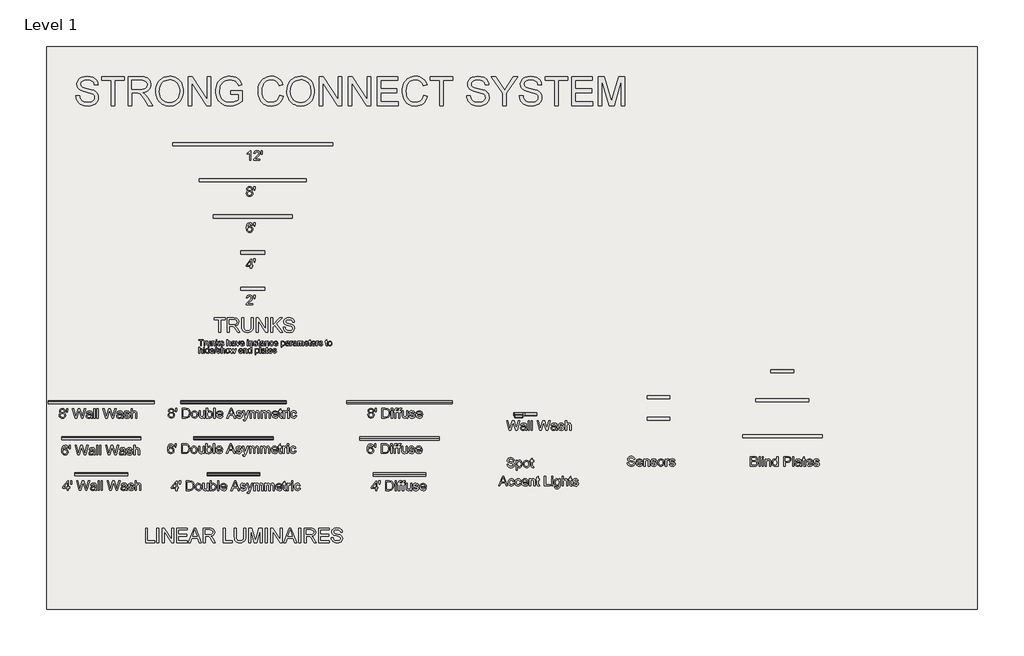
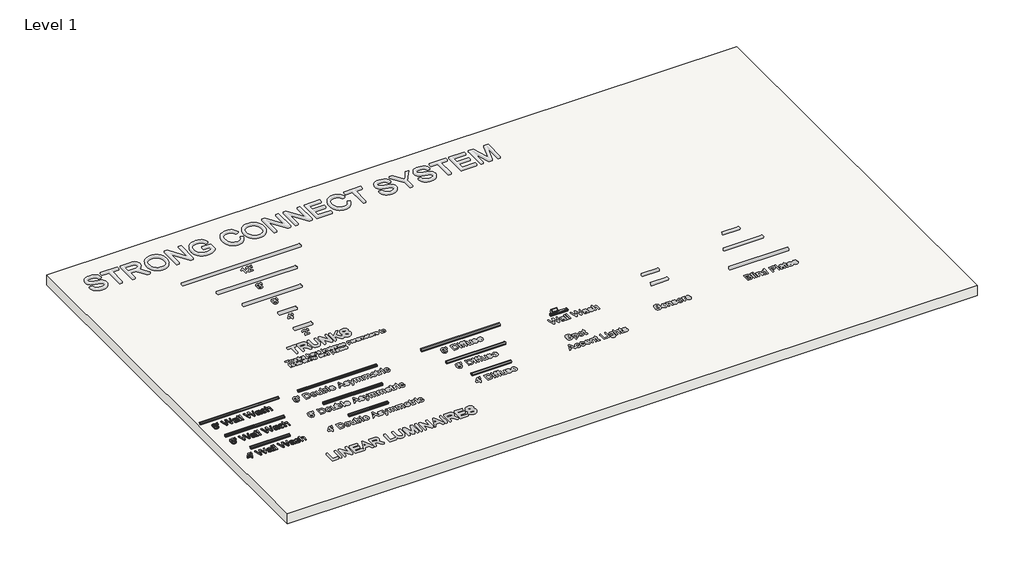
# One storey, part 1 of 9: 10 light fixtures, 3 proxies, 1 slab.
"""IFC4 building model written with IfcOpenShell, lengths in millimetres."""

from ifc_helpers import new_model, si_unit, frame, origin, origin_with_axes, place, context, project, spatial, polyline, outline, extrude, transform, mapped, element, save
from components import sc_accent_wall_wash_ww_dae7142a, sc_linear_luminaire_4_da_37324525, sc_linear_luminaire_4_diffuse_23ad9b4f, sc_linear_luminaire_4_ww_3d6254a3, sc_linear_luminaire_6_da_861f9beb, sc_linear_luminaire_6_diffuse_c174722b, sc_linear_luminaire_6_ww_00255d47, sc_linear_luminaire_8_da_5aac7d14, sc_linear_luminaire_8_diffuse_547f4cf2, sc_linear_luminaire_8_ww_71fdede2

model = new_model("IFC4")

# Units and contexts
model_context = context("Model", 3, world=origin())
ifc_project = project(units=[si_unit("LENGTHUNIT", "METRE", prefix="MILLI")], contexts=[model_context])

# Site, building, storey
site = spatial("IfcSite", under=ifc_project)
building = spatial("IfcBuilding", under=site)
storey = spatial("IfcBuildingStorey", under=building, Name="Level 1", Elevation=0.0)

# Proxies
placement = place(None, origin())
element("IfcBuildingElementProxy", 1, Name="8\"", ObjectType="8\"", at=placement, inside=storey, context=model_context, shape_type="SweptSolid", body=[
    extrude(outline(polyline([(-11388.9825766, 7554.1779563), (-11402.571355, 7560.8701044), (-11412.107666, 7569.9416829), (-11417.7402239, 7581.2067988), (-11419.6177432, 7594.4795591), (-11415.5280972, 7614.3205388), (-11403.2591591, 7630.7163016), (-11384.1865371, 7641.7211673), (-11359.6858395, 7645.3894559), (-11335.0364274, 7641.6344172), (-11315.7159481, 7630.3693013), (-11303.2239384, 7613.7132884), (-11299.0599352, 7593.7855586), (-11300.9126688, 7580.9403521), (-11306.4708695, 7569.8673257), (-11315.7965018, 7560.8515151), (-11328.9515299, 7554.1779563), (-11313.3303213, 7546.1287894), (-11301.959866, 7534.2750123), (-11295.026057, 7519.186697), (-11292.7147874, 7501.4339153), (-11297.3001481, 7477.1686821), (-11311.0562302, 7457.1170237), (-11332.2976039, 7443.6583704), (-11359.3388392, 7439.1721526), (-11386.3800745, 7443.6769597), (-11407.6214482, 7457.1913809), (-11421.3775303, 7477.4351288), (-11425.962891, 7502.1279158), (-11423.5586749, 7520.5685016), (-11416.3460264, 7535.7373706), (-11404.6967316, 7547.1140223), (-11388.9825766, 7554.1779563)]), holes=[polyline([(-11394.2371521, 7593.7359871), (-11391.9878467, 7582.6567642), (-11385.2399308, 7573.8082573), (-11374.19169, 7568.0083957), (-11359.0414104, 7566.0751084), (-11344.2443275, 7567.9960028), (-11333.3633904, 7573.7586858), (-11326.6712424, 7582.3097639), (-11324.4405263, 7592.5958434), (-11326.7455996, 7603.2722981), (-11333.6608192, 7612.1022157), (-11344.6904707, 7618.0322024), (-11359.3388392, 7620.0088647), (-11374.0801542, 7618.0755775), (-11385.0912164, 7612.2757158), (-11391.9506681, 7603.7742092), (-11394.2371521, 7593.7359871)]), polyline([(-11400.5822999, 7503.0202022), (-11396.3439394, 7483.9104017), (-11390.475917, 7475.7125203), (-11381.3485706, 7469.6090334), (-11359.1405533, 7464.5527437), (-11341.864897, 7467.2110137), (-11328.9019584, 7475.1858234), (-11320.7970235, 7487.2626721), (-11318.0953785, 7502.2270588), (-11320.8837736, 7517.4454992), (-11329.2489587, 7529.7887945), (-11342.5093261, 7537.9680866), (-11359.9832683, 7540.6945173), (-11377.0172637, 7538.0052652), (-11389.8500772, 7529.9375089), (-11397.8992442, 7517.8296781), (-11400.5822999, 7503.0202022)])]), origin_with_axes(), (0.0, 0.0, 1.0), 25.4),
    extrude(outline(polyline([(-11264.8060514, 7572.4202562), (-11270.5067701, 7610.9372862), (-11270.5067701, 7645.3894559), (-11245.1261789, 7645.3894559), (-11245.1261789, 7610.9372862), (-11251.074755, 7572.4202562), (-11264.8060514, 7572.4202562)])), origin_with_axes(), (0.0, 0.0, 1.0), 25.4),
    extrude(outline(polyline([(-11091.4050593, 7442.3447265), (-11146.7763881, 7645.3894559), (-11120.6026535, 7645.3894559), (-11088.4803428, 7511.9430663), (-11078.5660494, 7470.7491771), (-11067.9577554, 7507.1842055), (-11027.7057241, 7645.3894559), (-10989.9818376, 7645.3894559), (-10960.734672, 7545.2055208), (-10948.2054837, 7508.0269204), (-10938.9727979, 7470.7491771), (-10929.3559333, 7510.7533511), (-10896.9361938, 7645.3894559), (-10870.7624591, 7645.3894559), (-10926.1833594, 7442.3447265), (-10953.2989519, 7442.3447265), (-11001.9781326, 7598.9905626), (-11008.7694236, 7620.8515796), (-11016.4034296, 7594.5291306), (-11060.7698927, 7442.3447265), (-11091.4050593, 7442.3447265)])), origin_with_axes(), (0.0, 0.0, 1.0), 25.4),
    extrude(outline(polyline([(-10753.377225, 7461.3801699), (-10777.9894584, 7444.1788708), (-10805.1794081, 7439.1721526), (-10826.3897996, 7442.1836192), (-10842.0357939, 7451.2180191), (-10851.6836407, 7464.9369226), (-10854.8995897, 7482.0019002), (-10850.0415859, 7502.0783444), (-10837.2769331, 7516.6523557), (-10819.5055621, 7524.9803622), (-10797.5454022, 7528.7973652), (-10753.5259394, 7537.5219434), (-10753.377225, 7543.1730906), (-10755.1246192, 7554.5001709), (-10760.3668018, 7561.9111052), (-10772.0904538, 7567.4135381), (-10788.4242522, 7569.2476823), (-10803.5435497, 7568.026985), (-10814.1022722, 7564.3648928), (-10821.3025278, 7557.5921911), (-10826.3464246, 7547.0396651), (-10851.7270158, 7550.212239), (-10847.3213516, 7564.0922498), (-10840.7469358, 7574.9979725), (-10831.3903214, 7583.3383719), (-10818.6380614, 7589.5224124), (-10785.1525354, 7594.6282735), (-10754.39344, 7590.11727), (-10737.0186408, 7578.7901898), (-10729.2359205, 7561.5641049), (-10727.9966338, 7539.3560877), (-10727.9966338, 7507.7790631), (-10726.7077756, 7463.6852431), (-10721.651486, 7442.3447265), (-10747.0320772, 7442.3447265), (-10753.377225, 7461.3801699)]), holes=[polyline([(-10753.377225, 7512.1413522), (-10794.3232568, 7504.3586319), (-10816.1594881, 7500.2442001), (-10826.0489958, 7493.552052), (-10829.5189985, 7483.786473), (-10827.6290863, 7476.2392171), (-10821.9593497, 7470.0551766), (-10812.6337175, 7465.928352), (-10799.7761182, 7464.5527437), (-10786.1439647, 7466.0708699), (-10774.0980982, 7470.6252485), (-10757.5412282, 7485.3231885), (-10753.5259394, 7504.9534895), (-10753.377225, 7512.1413522)])]), origin_with_axes(), (0.0, 0.0, 1.0), 25.4),
    extrude(outline(polyline([(-10693.0983209, 7442.3447265), (-10693.0983209, 7645.3894559), (-10667.7177298, 7645.3894559), (-10667.7177298, 7442.3447265), (-10693.0983209, 7442.3447265)])), origin_with_axes(), (0.0, 0.0, 1.0), 25.4),
    extrude(outline(polyline([(-10629.646843, 7442.3447265), (-10629.646843, 7645.3894559), (-10604.2662518, 7645.3894559), (-10604.2662518, 7442.3447265), (-10629.646843, 7442.3447265)])), origin_with_axes(), (0.0, 0.0, 1.0), 25.4),
    extrude(outline(polyline([(-10447.3725583, 7442.3447265), (-10502.7438871, 7645.3894559), (-10476.5701525, 7645.3894559), (-10444.4478418, 7511.9430663), (-10434.5335484, 7470.7491771), (-10423.9252544, 7507.1842055), (-10383.6732231, 7645.3894559), (-10345.9493366, 7645.3894559), (-10316.702171, 7545.2055208), (-10304.1729827, 7508.0269204), (-10294.9402969, 7470.7491771), (-10285.3234323, 7510.7533511), (-10252.9036928, 7645.3894559), (-10226.7299581, 7645.3894559), (-10282.1508584, 7442.3447265), (-10309.2664509, 7442.3447265), (-10357.9456316, 7598.9905626), (-10364.7369226, 7620.8515796), (-10372.3709286, 7594.5291306), (-10416.7373917, 7442.3447265), (-10447.3725583, 7442.3447265)])), origin_with_axes(), (0.0, 0.0, 1.0), 25.4),
    extrude(outline(polyline([(-10109.344724, 7461.3801699), (-10133.9569574, 7444.1788708), (-10161.1469071, 7439.1721526), (-10182.3572986, 7442.1836192), (-10198.0032929, 7451.2180191), (-10207.6511397, 7464.9369226), (-10210.8670887, 7482.0019002), (-10206.0090849, 7502.0783444), (-10193.2444321, 7516.6523557), (-10175.4730611, 7524.9803622), (-10153.5129012, 7528.7973652), (-10109.4934384, 7537.5219434), (-10109.344724, 7543.1730906), (-10111.0921182, 7554.5001709), (-10116.3343008, 7561.9111052), (-10128.0579528, 7567.4135381), (-10144.3917512, 7569.2476823), (-10159.5110487, 7568.026985), (-10170.0697712, 7564.3648928), (-10177.2700268, 7557.5921911), (-10182.3139236, 7547.0396651), (-10207.6945148, 7550.212239), (-10203.2888506, 7564.0922498), (-10196.7144348, 7574.9979725), (-10187.3578204, 7583.3383719), (-10174.6055604, 7589.5224124), (-10141.1200344, 7594.6282735), (-10110.360939, 7590.11727), (-10092.9861398, 7578.7901898), (-10085.2034195, 7561.5641049), (-10083.9641328, 7539.3560877), (-10083.9641328, 7507.7790631), (-10082.6752746, 7463.6852431), (-10077.618985, 7442.3447265), (-10102.9995762, 7442.3447265), (-10109.344724, 7461.3801699)]), holes=[polyline([(-10109.344724, 7512.1413522), (-10150.2907558, 7504.3586319), (-10172.1269871, 7500.2442001), (-10182.0164948, 7493.552052), (-10185.4864975, 7483.786473), (-10183.5965853, 7476.2392171), (-10177.9268487, 7470.0551766), (-10168.6012165, 7465.928352), (-10155.7436172, 7464.5527437), (-10142.1114637, 7466.0708699), (-10130.0655972, 7470.6252485), (-10113.5087272, 7485.3231885), (-10109.4934384, 7504.9534895), (-10109.344724, 7512.1413522)])]), origin_with_axes(), (0.0, 0.0, 1.0), 25.4),
    extrude(outline(polyline([(-10058.5835416, 7486.760761), (-10033.2029504, 7489.9333349), (-10029.2000545, 7479.0771836), (-10021.4545127, 7471.0961774), (-10009.9167538, 7466.1886022), (-9994.5372061, 7464.5527437), (-9979.3435514, 7466.0522806), (-9968.6609002, 7470.5508913), (-9962.3405382, 7477.0695392), (-9960.2337508, 7484.6291879), (-9962.352931, 7491.0982644), (-9968.7104717, 7496.0306254), (-9994.8346349, 7503.2680596), (-10033.054236, 7515.6857121), (-10042.7268686, 7521.9255205), (-10049.7350347, 7530.1853662), (-10055.4109677, 7550.6583822), (-10050.8503927, 7569.5698969), (-10038.4079545, 7584.0199795), (-10022.2724419, 7591.5300568), (-10000.4362107, 7594.6282735), (-9969.5531866, 7589.6463411), (-9958.0030348, 7583.7845151), (-9949.9228857, 7576.162902), (-9941.1983074, 7553.3848129), (-9966.5788986, 7550.212239), (-9969.7824547, 7558.1994416), (-9976.121406, 7564.2161784), (-9998.453352, 7569.2476823), (-10013.0273633, 7568.0455743), (-10022.7433709, 7564.43925), (-10028.2086251, 7559.234246), (-10030.0303766, 7553.2360985), (-10027.0065171, 7545.8499498), (-10017.5383668, 7540.2483741), (-9995.6773498, 7534.8450841), (-9958.4243923, 7522.8983606), (-9941.1239502, 7509.36535), (-9936.4208573, 7499.413878), (-9934.8531597, 7487.3060472), (-9936.6935004, 7474.7892517), (-9942.2145225, 7463.0160283), (-9951.2055474, 7452.9096454), (-9963.4558962, 7445.3933717), (-9978.2529791, 7440.7274574), (-9994.8842064, 7439.1721526), (-10020.4754763, 7442.1712263), (-10039.1515265, 7451.1684476), (-10051.6187505, 7466.0646735), (-10058.5835416, 7486.760761)])), origin_with_axes(), (0.0, 0.0, 1.0), 25.4),
    extrude(outline(polyline([(-9906.2999946, 7442.3447265), (-9906.2999946, 7645.3894559), (-9880.9194034, 7645.3894559), (-9880.9194034, 7570.7348263), (-9861.1279952, 7588.6549117), (-9836.7512262, 7594.6282735), (-9821.42125, 7592.9986115), (-9808.2476326, 7588.1096256), (-9797.8748031, 7580.3454945), (-9790.9471906, 7570.0903973), (-9787.0434375, 7555.9997077), (-9785.7421865, 7536.7287999), (-9785.7421865, 7442.3447265), (-9811.1227777, 7442.3447265), (-9811.1227777, 7534.1015121), (-9813.142815, 7549.9891674), (-9819.2029268, 7560.8701044), (-9828.9685059, 7567.1532878), (-9842.1049446, 7569.2476823), (-9862.9001751, 7563.5965351), (-9871.2405745, 7556.9415656), (-9876.7801859, 7548.2789517), (-9880.9194034, 7521.559931), (-9880.9194034, 7442.3447265), (-9906.2999946, 7442.3447265)])), origin_with_axes(), (0.0, 0.0, 1.0), 25.4),
])
element("IfcBuildingElementProxy", 2, Name="8\"", ObjectType="8\"", at=placement, inside=storey, context=model_context, shape_type="SweptSolid", body=[
    extrude(outline(polyline([(-11240.3286078, 6815.5660112), (-11265.709199, 6812.3934374), (-11275.3260636, 6833.5604538), (-11286.8390369, 6841.4794957), (-11300.7562263, 6844.1191763), (-11323.6582441, 6837.9723144), (-11333.1945551, 6828.2625033), (-11340.9834718, 6814.8967964), (-11346.2442438, 6795.9914782), (-11348.1961203, 6769.6628327), (-11338.0153802, 6781.5413955), (-11325.8146029, 6789.912777), (-11312.2753959, 6794.8761202), (-11298.079367, 6796.5305679), (-11274.6320631, 6792.0071715), (-11254.9521906, 6778.4369824), (-11241.6050731, 6757.7037162), (-11237.1560339, 6731.6910889), (-11239.2504284, 6713.5169497), (-11245.5336119, 6696.6688473), (-11255.4850839, 6682.3798719), (-11268.5843441, 6671.8831138), (-11284.2365348, 6665.4326266), (-11301.8467985, 6663.2824642), (-11330.6416245, 6668.9831829), (-11353.5746245, 6686.0853391), (-11362.3255375, 6699.3333137), (-11368.5761897, 6716.2743626), (-11373.5767115, 6761.2356833), (-11372.1887104, 6788.5092848), (-11368.0247072, 6811.7861869), (-11361.0847018, 6831.0663894), (-11351.3686942, 6846.3498923), (-11340.8378557, 6856.4779627), (-11328.6277837, 6863.7122987), (-11299.1699393, 6869.4997675), (-11276.8999577, 6865.918229), (-11259.0666224, 6855.1736135), (-11246.5746127, 6838.1086359), (-11240.3286078, 6815.5660112)]), holes=[polyline([(-11348.1961203, 6732.0876606), (-11342.3219015, 6710.1027149), (-11326.7068893, 6694.1407025), (-11303.8296572, 6688.6630554), (-11287.0806978, 6691.5010219), (-11273.9132768, 6700.0149214), (-11265.380788, 6713.3992175), (-11262.5366251, 6730.8483739), (-11265.3436094, 6747.5973334), (-11273.7645624, 6760.3681826), (-11287.155055, 6768.4545282), (-11304.870658, 6771.1499767), (-11321.5948318, 6768.4545282), (-11335.5801819, 6760.3681826), (-11345.0421357, 6747.907155), (-11348.1961203, 6732.0876606)])]), origin_with_axes(), (0.0, 0.0, 1.0), 25.4),
    extrude(outline(polyline([(-11209.2472979, 6796.5305679), (-11214.9480167, 6835.0475978), (-11214.9480167, 6869.4997675), (-11189.5674255, 6869.4997675), (-11189.5674255, 6835.0475978), (-11195.5160015, 6796.5305679), (-11209.2472979, 6796.5305679)])), origin_with_axes(), (0.0, 0.0, 1.0), 25.4),
    extrude(outline(polyline([(-11035.8463059, 6666.4550381), (-11091.2176347, 6869.4997675), (-11065.0439, 6869.4997675), (-11032.9215893, 6736.053378), (-11023.0072959, 6694.8594888), (-11012.3990019, 6731.2945171), (-10972.1469706, 6869.4997675), (-10934.4230841, 6869.4997675), (-10905.1759185, 6769.3158324), (-10892.6467302, 6732.1372321), (-10883.4140445, 6694.8594888), (-10873.7971798, 6734.8636628), (-10841.3774403, 6869.4997675), (-10815.2037057, 6869.4997675), (-10870.6246059, 6666.4550381), (-10897.7401985, 6666.4550381), (-10946.4193792, 6823.1008743), (-10953.2106702, 6844.9618913), (-10960.8446761, 6818.6394422), (-11005.2111392, 6666.4550381), (-11035.8463059, 6666.4550381)])), origin_with_axes(), (0.0, 0.0, 1.0), 25.4),
    extrude(outline(polyline([(-10697.8184715, 6685.4904815), (-10722.4307049, 6668.2891824), (-10749.6206547, 6663.2824642), (-10770.8310462, 6666.2939308), (-10786.4770405, 6675.3283307), (-10796.1248873, 6689.0472343), (-10799.3408362, 6706.1122118), (-10794.4828324, 6726.188656), (-10781.7181796, 6740.7626673), (-10763.9468087, 6749.0906738), (-10741.9866487, 6752.9076768), (-10697.9671859, 6761.632255), (-10697.8184715, 6767.2834023), (-10699.5658657, 6778.6104825), (-10704.8080484, 6786.0214168), (-10716.5317004, 6791.5238497), (-10732.8654988, 6793.357994), (-10747.9847963, 6792.1372966), (-10758.5435188, 6788.4752045), (-10765.7437744, 6781.7025028), (-10770.7876711, 6771.1499767), (-10796.1682623, 6774.3225506), (-10791.7625982, 6788.2025614), (-10785.1881823, 6799.1082842), (-10775.8315679, 6807.4486835), (-10763.079308, 6813.632724), (-10729.5937819, 6818.7385851), (-10698.8346866, 6814.2275816), (-10681.4598874, 6802.9005014), (-10673.677167, 6785.6744166), (-10672.4378803, 6763.4663993), (-10672.4378803, 6731.8893747), (-10671.1490222, 6687.7955547), (-10666.0927326, 6666.4550381), (-10691.4733237, 6666.4550381), (-10697.8184715, 6685.4904815)]), holes=[polyline([(-10697.8184715, 6736.2516638), (-10738.7645034, 6728.4689435), (-10760.6007346, 6724.3545117), (-10770.4902423, 6717.6623637), (-10773.960245, 6707.8967846), (-10772.0703328, 6700.3495288), (-10766.4005963, 6694.1654882), (-10757.074964, 6690.0386636), (-10744.2173648, 6688.6630554), (-10730.5852113, 6690.1811816), (-10718.5393448, 6694.7355601), (-10701.9824748, 6709.4335001), (-10697.9671859, 6729.0638011), (-10697.8184715, 6736.2516638)])]), origin_with_axes(), (0.0, 0.0, 1.0), 25.4),
    extrude(outline(polyline([(-10637.5395675, 6666.4550381), (-10637.5395675, 6869.4997675), (-10612.1589763, 6869.4997675), (-10612.1589763, 6666.4550381), (-10637.5395675, 6666.4550381)])), origin_with_axes(), (0.0, 0.0, 1.0), 25.4),
    extrude(outline(polyline([(-10574.0880896, 6666.4550381), (-10574.0880896, 6869.4997675), (-10548.7074984, 6869.4997675), (-10548.7074984, 6666.4550381), (-10574.0880896, 6666.4550381)])), origin_with_axes(), (0.0, 0.0, 1.0), 25.4),
    extrude(outline(polyline([(-10391.8138049, 6666.4550381), (-10447.1851337, 6869.4997675), (-10421.011399, 6869.4997675), (-10388.8890883, 6736.053378), (-10378.9747949, 6694.8594888), (-10368.3665009, 6731.2945171), (-10328.1144696, 6869.4997675), (-10290.3905831, 6869.4997675), (-10261.1434175, 6769.3158324), (-10248.6142292, 6732.1372321), (-10239.3815435, 6694.8594888), (-10229.7646788, 6734.8636628), (-10197.3449393, 6869.4997675), (-10171.1712047, 6869.4997675), (-10226.5921049, 6666.4550381), (-10253.7076975, 6666.4550381), (-10302.3868782, 6823.1008743), (-10309.1781692, 6844.9618913), (-10316.8121751, 6818.6394422), (-10361.1786382, 6666.4550381), (-10391.8138049, 6666.4550381)])), origin_with_axes(), (0.0, 0.0, 1.0), 25.4),
    extrude(outline(polyline([(-10053.7859705, 6685.4904815), (-10078.3982039, 6668.2891824), (-10105.5881537, 6663.2824642), (-10126.7985452, 6666.2939308), (-10142.4445395, 6675.3283307), (-10152.0923863, 6689.0472343), (-10155.3083352, 6706.1122118), (-10150.4503314, 6726.188656), (-10137.6856786, 6740.7626673), (-10119.9143077, 6749.0906738), (-10097.9541477, 6752.9076768), (-10053.9346849, 6761.632255), (-10053.7859705, 6767.2834023), (-10055.5333647, 6778.6104825), (-10060.7755474, 6786.0214168), (-10072.4991994, 6791.5238497), (-10088.8329978, 6793.357994), (-10103.9522953, 6792.1372966), (-10114.5110178, 6788.4752045), (-10121.7112734, 6781.7025028), (-10126.7551701, 6771.1499767), (-10152.1357613, 6774.3225506), (-10147.7300972, 6788.2025614), (-10141.1556813, 6799.1082842), (-10131.7990669, 6807.4486835), (-10119.046807, 6813.632724), (-10085.5612809, 6818.7385851), (-10054.8021856, 6814.2275816), (-10037.4273864, 6802.9005014), (-10029.644666, 6785.6744166), (-10028.4053793, 6763.4663993), (-10028.4053793, 6731.8893747), (-10027.1165212, 6687.7955547), (-10022.0602316, 6666.4550381), (-10047.4408227, 6666.4550381), (-10053.7859705, 6685.4904815)]), holes=[polyline([(-10053.7859705, 6736.2516638), (-10094.7320024, 6728.4689435), (-10116.5682336, 6724.3545117), (-10126.4577413, 6717.6623637), (-10129.927744, 6707.8967846), (-10128.0378318, 6700.3495288), (-10122.3680953, 6694.1654882), (-10113.042463, 6690.0386636), (-10100.1848638, 6688.6630554), (-10086.5527103, 6690.1811816), (-10074.5068438, 6694.7355601), (-10057.9499738, 6709.4335001), (-10053.9346849, 6729.0638011), (-10053.7859705, 6736.2516638)])]), origin_with_axes(), (0.0, 0.0, 1.0), 25.4),
    extrude(outline(polyline([(-10003.0247882, 6710.8710727), (-9977.644197, 6714.0436466), (-9973.641301, 6703.1874953), (-9965.8957593, 6695.206489), (-9954.3580003, 6690.2989138), (-9938.9784526, 6688.6630554), (-9923.784798, 6690.1625923), (-9913.1021468, 6694.6612029), (-9906.7817847, 6701.1798508), (-9904.6749974, 6708.7394996), (-9906.7941776, 6715.208576), (-9913.1517183, 6720.140937), (-9939.2758814, 6727.3783712), (-9977.4954826, 6739.7960237), (-9987.1681151, 6746.0358322), (-9994.1762813, 6754.2956779), (-9999.8522143, 6774.7686938), (-9995.2916393, 6793.6802085), (-9982.849201, 6808.1302912), (-9966.7136885, 6815.6403685), (-9944.8774572, 6818.7385851), (-9913.9944332, 6813.7566527), (-9902.4442814, 6807.8948267), (-9894.3641322, 6800.2732136), (-9885.639554, 6777.4951245), (-9911.0201452, 6774.3225506), (-9914.2237012, 6782.3097532), (-9920.5626526, 6788.3264901), (-9942.8945985, 6793.357994), (-9957.4686099, 6792.1558859), (-9967.1846174, 6788.5495617), (-9972.6498717, 6783.3445576), (-9974.4716231, 6777.3464101), (-9971.4477636, 6769.9602615), (-9961.9796134, 6764.3586857), (-9940.1185964, 6758.9553958), (-9902.8656388, 6747.0086722), (-9885.5651968, 6733.4756617), (-9880.8621039, 6723.5241896), (-9879.2944062, 6711.4163588), (-9881.1347469, 6698.8995634), (-9886.6557691, 6687.1263399), (-9895.6467939, 6677.019957), (-9907.8971427, 6669.5036833), (-9922.6942257, 6664.837769), (-9939.3254529, 6663.2824642), (-9964.9167228, 6666.281538), (-9983.5927731, 6675.2787593), (-9996.059997, 6690.1749851), (-10003.0247882, 6710.8710727)])), origin_with_axes(), (0.0, 0.0, 1.0), 25.4),
    extrude(outline(polyline([(-9850.7412411, 6666.4550381), (-9850.7412411, 6869.4997675), (-9825.36065, 6869.4997675), (-9825.36065, 6794.845138), (-9805.5692417, 6812.7652234), (-9781.1924727, 6818.7385851), (-9765.8624965, 6817.1089232), (-9752.6888791, 6812.2199372), (-9742.3160497, 6804.4558062), (-9735.3884371, 6794.2007089), (-9731.4846841, 6780.1100194), (-9730.1834331, 6760.8391115), (-9730.1834331, 6666.4550381), (-9755.5640242, 6666.4550381), (-9755.5640242, 6758.2118238), (-9757.5840615, 6774.099479), (-9763.6441734, 6784.980416), (-9773.4097524, 6791.2635995), (-9786.5461912, 6793.357994), (-9807.3414217, 6787.7068467), (-9815.681821, 6781.0518773), (-9821.2214325, 6772.3892634), (-9825.36065, 6745.6702426), (-9825.36065, 6666.4550381), (-9850.7412411, 6666.4550381)])), origin_with_axes(), (0.0, 0.0, 1.0), 25.4),
])
element("IfcBuildingElementProxy", 3, Name="8\"", ObjectType="8\"", at=placement, inside=storey, context=model_context, shape_type="SweptSolid", body=[
    extrude(outline(polyline([(-11256.6654175, 5918.3447265), (-11256.6654175, 5965.9333349), (-11348.6700605, 5965.9333349), (-11348.6700605, 5991.3139261), (-11250.3202697, 6118.216882), (-11231.2848263, 6118.216882), (-11231.2848263, 5991.3139261), (-11205.9042351, 5991.3139261), (-11205.9042351, 5965.9333349), (-11231.2848263, 5965.9333349), (-11231.2848263, 5918.3447265), (-11256.6654175, 5918.3447265)]), holes=[polyline([(-11256.6654175, 5991.3139261), (-11256.6654175, 6069.7359871), (-11317.4400362, 5991.3139261), (-11256.6654175, 5991.3139261)])]), origin_with_axes(), (0.0, 0.0, 1.0), 25.4),
    extrude(outline(polyline([(-11177.9954991, 6048.4202562), (-11183.6962178, 6086.9372862), (-11183.6962178, 6121.3894559), (-11158.3156267, 6121.3894559), (-11158.3156267, 6086.9372862), (-11164.2642027, 6048.4202562), (-11177.9954991, 6048.4202562)])), origin_with_axes(), (0.0, 0.0, 1.0), 25.4),
    extrude(outline(polyline([(-11004.5945071, 5918.3447265), (-11059.9658359, 6121.3894559), (-11033.7921012, 6121.3894559), (-11001.6697905, 5987.9430663), (-10991.7554971, 5946.7491771), (-10981.1472031, 5983.1842055), (-10940.8951718, 6121.3894559), (-10903.1712853, 6121.3894559), (-10873.9241197, 6021.2055208), (-10861.3949314, 5984.0269204), (-10852.1622456, 5946.7491771), (-10842.545381, 5986.7533511), (-10810.1256415, 6121.3894559), (-10783.9519069, 6121.3894559), (-10839.3728071, 5918.3447265), (-10866.4883997, 5918.3447265), (-10915.1675804, 6074.9905626), (-10921.9588714, 6096.8515796), (-10929.5928773, 6070.5291306), (-10973.9593404, 5918.3447265), (-11004.5945071, 5918.3447265)])), origin_with_axes(), (0.0, 0.0, 1.0), 25.4),
    extrude(outline(polyline([(-10666.5666727, 5937.3801699), (-10691.1789061, 5920.1788708), (-10718.3688559, 5915.1721526), (-10739.5792474, 5918.1836192), (-10755.2252417, 5927.2180191), (-10764.8730885, 5940.9369226), (-10768.0890374, 5958.0019002), (-10763.2310336, 5978.0783444), (-10750.4663808, 5992.6523557), (-10732.6950099, 6000.9803622), (-10710.7348499, 6004.7973652), (-10666.7153871, 6013.5219434), (-10666.5666727, 6019.1730906), (-10668.3140669, 6030.5001709), (-10673.5562496, 6037.9111052), (-10685.2799015, 6043.4135381), (-10701.6137, 6045.2476823), (-10716.7329974, 6044.026985), (-10727.2917199, 6040.3648928), (-10734.4919755, 6033.5921911), (-10739.5358723, 6023.0396651), (-10764.9164635, 6026.212239), (-10760.5107994, 6040.0922498), (-10753.9363835, 6050.9979725), (-10744.5797691, 6059.3383719), (-10731.8275092, 6065.5224124), (-10698.3419831, 6070.6282735), (-10667.5828878, 6066.11727), (-10650.2080885, 6054.7901898), (-10642.4253682, 6037.5641049), (-10641.1860815, 6015.3560877), (-10641.1860815, 5983.7790631), (-10639.8972234, 5939.6852431), (-10634.8409337, 5918.3447265), (-10660.2215249, 5918.3447265), (-10666.5666727, 5937.3801699)]), holes=[polyline([(-10666.5666727, 5988.1413522), (-10707.5127046, 5980.3586319), (-10729.3489358, 5976.2442001), (-10739.2384435, 5969.552052), (-10742.7084462, 5959.786473), (-10740.818534, 5952.2392171), (-10735.1487975, 5946.0551766), (-10725.8231652, 5941.928352), (-10712.9655659, 5940.5527437), (-10699.3334125, 5942.0708699), (-10687.287546, 5946.6252485), (-10670.7306759, 5961.3231885), (-10666.7153871, 5980.9534895), (-10666.5666727, 5988.1413522)])]), origin_with_axes(), (0.0, 0.0, 1.0), 25.4),
    extrude(outline(polyline([(-10606.2877687, 5918.3447265), (-10606.2877687, 6121.3894559), (-10580.9071775, 6121.3894559), (-10580.9071775, 5918.3447265), (-10606.2877687, 5918.3447265)])), origin_with_axes(), (0.0, 0.0, 1.0), 25.4),
    extrude(outline(polyline([(-10542.8362907, 5918.3447265), (-10542.8362907, 6121.3894559), (-10517.4556996, 6121.3894559), (-10517.4556996, 5918.3447265), (-10542.8362907, 5918.3447265)])), origin_with_axes(), (0.0, 0.0, 1.0), 25.4),
    extrude(outline(polyline([(-10360.5620061, 5918.3447265), (-10415.9333349, 6121.3894559), (-10389.7596002, 6121.3894559), (-10357.6372895, 5987.9430663), (-10347.7229961, 5946.7491771), (-10337.1147021, 5983.1842055), (-10296.8626708, 6121.3894559), (-10259.1387843, 6121.3894559), (-10229.8916187, 6021.2055208), (-10217.3624304, 5984.0269204), (-10208.1297447, 5946.7491771), (-10198.51288, 5986.7533511), (-10166.0931405, 6121.3894559), (-10139.9194059, 6121.3894559), (-10195.3403061, 5918.3447265), (-10222.4558987, 5918.3447265), (-10271.1350794, 6074.9905626), (-10277.9263704, 6096.8515796), (-10285.5603763, 6070.5291306), (-10329.9268394, 5918.3447265), (-10360.5620061, 5918.3447265)])), origin_with_axes(), (0.0, 0.0, 1.0), 25.4),
    extrude(outline(polyline([(-10022.5341717, 5937.3801699), (-10047.1464051, 5920.1788708), (-10074.3363549, 5915.1721526), (-10095.5467464, 5918.1836192), (-10111.1927407, 5927.2180191), (-10120.8405875, 5940.9369226), (-10124.0565364, 5958.0019002), (-10119.1985326, 5978.0783444), (-10106.4338798, 5992.6523557), (-10088.6625089, 6000.9803622), (-10066.7023489, 6004.7973652), (-10022.6828861, 6013.5219434), (-10022.5341717, 6019.1730906), (-10024.2815659, 6030.5001709), (-10029.5237486, 6037.9111052), (-10041.2474005, 6043.4135381), (-10057.581199, 6045.2476823), (-10072.7004964, 6044.026985), (-10083.2592189, 6040.3648928), (-10090.4594745, 6033.5921911), (-10095.5033713, 6023.0396651), (-10120.8839625, 6026.212239), (-10116.4782984, 6040.0922498), (-10109.9038825, 6050.9979725), (-10100.5472681, 6059.3383719), (-10087.7950082, 6065.5224124), (-10054.3094821, 6070.6282735), (-10023.5503868, 6066.11727), (-10006.1755875, 6054.7901898), (-9998.3928672, 6037.5641049), (-9997.1535805, 6015.3560877), (-9997.1535805, 5983.7790631), (-9995.8647224, 5939.6852431), (-9990.8084327, 5918.3447265), (-10016.1890239, 5918.3447265), (-10022.5341717, 5937.3801699)]), holes=[polyline([(-10022.5341717, 5988.1413522), (-10063.4802036, 5980.3586319), (-10085.3164348, 5976.2442001), (-10095.2059425, 5969.552052), (-10098.6759452, 5959.786473), (-10096.786033, 5952.2392171), (-10091.1162965, 5946.0551766), (-10081.7906642, 5941.928352), (-10068.9330649, 5940.5527437), (-10055.3009115, 5942.0708699), (-10043.255045, 5946.6252485), (-10026.6981749, 5961.3231885), (-10022.6828861, 5980.9534895), (-10022.5341717, 5988.1413522)])]), origin_with_axes(), (0.0, 0.0, 1.0), 25.4),
    extrude(outline(polyline([(-9971.7729894, 5962.760761), (-9946.3923982, 5965.9333349), (-9942.3895022, 5955.0771836), (-9934.6439605, 5947.0961774), (-9923.1062015, 5942.1886022), (-9907.7266538, 5940.5527437), (-9892.5329991, 5942.0522806), (-9881.850348, 5946.5508913), (-9875.5299859, 5953.0695392), (-9873.4231986, 5960.6291879), (-9875.5423788, 5967.0982644), (-9881.8999194, 5972.0306254), (-9908.0240826, 5979.2680596), (-9946.2436838, 5991.6857121), (-9955.9163163, 5997.9255205), (-9962.9244825, 6006.1853662), (-9968.6004155, 6026.6583822), (-9964.0398405, 6045.5698969), (-9951.5974022, 6060.0199795), (-9935.4618897, 6067.5300568), (-9913.6256584, 6070.6282735), (-9882.7426344, 6065.6463411), (-9871.1924825, 6059.7845151), (-9863.1123334, 6052.162902), (-9854.3877552, 6029.3848129), (-9879.7683464, 6026.212239), (-9882.9719024, 6034.1994416), (-9889.3108538, 6040.2161784), (-9911.6427997, 6045.2476823), (-9926.2168111, 6044.0455743), (-9935.9328186, 6040.43925), (-9941.3980729, 6035.234246), (-9943.2198243, 6029.2360985), (-9940.1959648, 6021.8499498), (-9930.7278146, 6016.2483741), (-9908.8667976, 6010.8450841), (-9871.61384, 5998.8983606), (-9854.313398, 5985.36535), (-9849.610305, 5975.413878), (-9848.0426074, 5963.3060472), (-9849.8829481, 5950.7892517), (-9855.4039703, 5939.0160283), (-9864.3949951, 5928.9096454), (-9876.6453439, 5921.3933717), (-9891.4424269, 5916.7274574), (-9908.0736541, 5915.1721526), (-9933.664924, 5918.1712263), (-9952.3409742, 5927.1684476), (-9964.8081982, 5942.0646735), (-9971.7729894, 5962.760761)])), origin_with_axes(), (0.0, 0.0, 1.0), 25.4),
    extrude(outline(polyline([(-9819.4894423, 5918.3447265), (-9819.4894423, 6121.3894559), (-9794.1088512, 6121.3894559), (-9794.1088512, 6046.7348263), (-9774.3174429, 6064.6549117), (-9749.9406739, 6070.6282735), (-9734.6106977, 6068.9986115), (-9721.4370803, 6064.1096256), (-9711.0642508, 6056.3454945), (-9704.1366383, 6046.0903973), (-9700.2328853, 6031.9997077), (-9698.9316343, 6012.7287999), (-9698.9316343, 5918.3447265), (-9724.3122254, 5918.3447265), (-9724.3122254, 6010.1015121), (-9726.3322627, 6025.9891674), (-9732.3923746, 6036.8701044), (-9742.1579536, 6043.1532878), (-9755.2943924, 6045.2476823), (-9776.0896228, 6039.5965351), (-9784.4300222, 6032.9415656), (-9789.9696336, 6024.2789517), (-9794.1088512, 5997.559931), (-9794.1088512, 5918.3447265), (-9819.4894423, 5918.3447265)])), origin_with_axes(), (0.0, 0.0, 1.0), 25.4),
])

# Light fixtures
sc_accent_wall_wash_ww_shape = sc_accent_wall_wash_ww_dae7142a(model_context)
element("IfcLightFixture", 4, ObjectType="SC-Accent-Wall-Wash : WW", at=placement, inside=storey, context=model_context, shape_type="MappedRepresentation", body=[
    mapped(sc_accent_wall_wash_ww_shape, transform((-1580.5952866, 7524.7864795, 0.0), x_axis=(-1.0, 0.0, 0.0), y_axis=(0.0, -1.0, 0.0), z_axis=(0.0, 0.0, 1.0))),
])
sc_linear_luminaire_4_da_shape = sc_linear_luminaire_4_da_37324525(model_context)
element("IfcLightFixture", 5, ObjectType="SC-Linear-Luminaire : 4' DA", at=placement, inside=storey, context=model_context, shape_type="MappedRepresentation", body=[
    mapped(sc_linear_luminaire_4_da_shape, transform((-7744.7015838, 6254.8965095, 0.0), x_axis=(1.0, 0.0, 0.0), y_axis=(0.0, 1.0, 0.0), z_axis=(0.0, 0.0, 1.0))),
])
sc_linear_luminaire_4_diffuse_shape = sc_linear_luminaire_4_diffuse_23ad9b4f(model_context)
element("IfcLightFixture", 6, ObjectType="SC-Linear-Luminaire : 4' Diffuse", at=placement, inside=storey, context=model_context, shape_type="MappedRepresentation", body=[
    mapped(sc_linear_luminaire_4_diffuse_shape, transform((-4239.5015838, 6254.8965095, 0.0), x_axis=(1.0, 0.0, 0.0), y_axis=(0.0, 1.0, 0.0), z_axis=(0.0, 0.0, 1.0))),
])
sc_linear_luminaire_4_ww_shape = sc_linear_luminaire_4_ww_3d6254a3(model_context)
element("IfcLightFixture", 7, ObjectType="SC-Linear-Luminaire : 4' WW", at=placement, inside=storey, context=model_context, shape_type="MappedRepresentation", body=[
    mapped(sc_linear_luminaire_4_ww_shape, transform((-10538.7015838, 6254.8965095, 0.0), x_axis=(1.0, 0.0, 0.0), y_axis=(0.0, 1.0, 0.0), z_axis=(0.0, 0.0, 1.0))),
])
sc_linear_luminaire_6_da_shape = sc_linear_luminaire_6_da_861f9beb(model_context)
element("IfcLightFixture", 8, ObjectType="SC-Linear-Luminaire : 6' DA", at=placement, inside=storey, context=model_context, shape_type="MappedRepresentation", body=[
    mapped(sc_linear_luminaire_6_da_shape, transform((-7744.7015838, 7016.8965095, 0.0), x_axis=(1.0, 0.0, 0.0), y_axis=(0.0, 1.0, 0.0), z_axis=(0.0, 0.0, 1.0))),
])
sc_linear_luminaire_6_diffuse_shape = sc_linear_luminaire_6_diffuse_c174722b(model_context)
element("IfcLightFixture", 9, ObjectType="SC-Linear-Luminaire : 6' Diffuse", at=placement, inside=storey, context=model_context, shape_type="MappedRepresentation", body=[
    mapped(sc_linear_luminaire_6_diffuse_shape, transform((-4239.5015838, 7016.8965095, 0.0), x_axis=(1.0, 0.0, 0.0), y_axis=(0.0, 1.0, 0.0), z_axis=(0.0, 0.0, 1.0))),
])
sc_linear_luminaire_6_ww_shape = sc_linear_luminaire_6_ww_00255d47(model_context)
element("IfcLightFixture", 10, ObjectType="SC-Linear-Luminaire : 6' WW", at=placement, inside=storey, context=model_context, shape_type="MappedRepresentation", body=[
    mapped(sc_linear_luminaire_6_ww_shape, transform((-10538.7015838, 7016.8965095, 0.0), x_axis=(1.0, 0.0, 0.0), y_axis=(0.0, 1.0, 0.0), z_axis=(0.0, 0.0, 1.0))),
])
sc_linear_luminaire_8_da_shape = sc_linear_luminaire_8_da_5aac7d14(model_context)
element("IfcLightFixture", 11, ObjectType="SC-Linear-Luminaire : 8' DA", at=placement, inside=storey, context=model_context, shape_type="MappedRepresentation", body=[
    mapped(sc_linear_luminaire_8_da_shape, transform((-7744.7015838, 7778.8965095, 0.0), x_axis=(1.0, 0.0, 0.0), y_axis=(0.0, 1.0, 0.0), z_axis=(0.0, 0.0, 1.0))),
])
sc_linear_luminaire_8_diffuse_shape = sc_linear_luminaire_8_diffuse_547f4cf2(model_context)
element("IfcLightFixture", 12, ObjectType="SC-Linear-Luminaire : 8' Diffuse", at=placement, inside=storey, context=model_context, shape_type="MappedRepresentation", body=[
    mapped(sc_linear_luminaire_8_diffuse_shape, transform((-4239.5015838, 7778.8965095, 0.0), x_axis=(1.0, 0.0, 0.0), y_axis=(0.0, 1.0, 0.0), z_axis=(0.0, 0.0, 1.0))),
])
sc_linear_luminaire_8_ww_shape = sc_linear_luminaire_8_ww_71fdede2(model_context)
element("IfcLightFixture", 13, ObjectType="SC-Linear-Luminaire : 8' WW", at=placement, inside=storey, context=model_context, shape_type="MappedRepresentation", body=[
    mapped(sc_linear_luminaire_8_ww_shape, transform((-10538.7015838, 7778.8965095, 0.0), x_axis=(1.0, 0.0, 0.0), y_axis=(0.0, 1.0, 0.0), z_axis=(0.0, 0.0, 1.0))),
])

# Slab
element("IfcSlab", 14, ObjectType="Generic - 12\"", at=placement, inside=storey, context=model_context, shape_type="SweptSolid", body=[
    extrude(outline(polyline([(7966.0779699, 15290.9286153), (7966.0779699, 3403.7286153), (-11693.5220301, 3403.7286153), (-11693.5220301, 15290.9286153), (7966.0779699, 15290.9286153)])), frame((0.0, 0.0, -304.8), z_axis=(0.0, 0.0, 1.0), x_axis=(1.0, 0.0, 0.0)), (0.0, 0.0, 1.0), 304.8),
])

save(model, "model.ifc")
